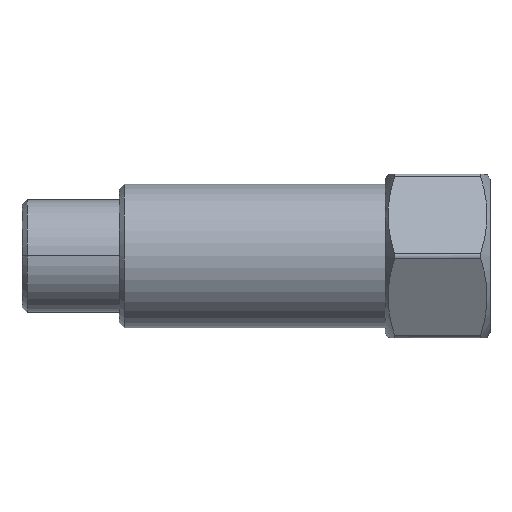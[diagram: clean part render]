
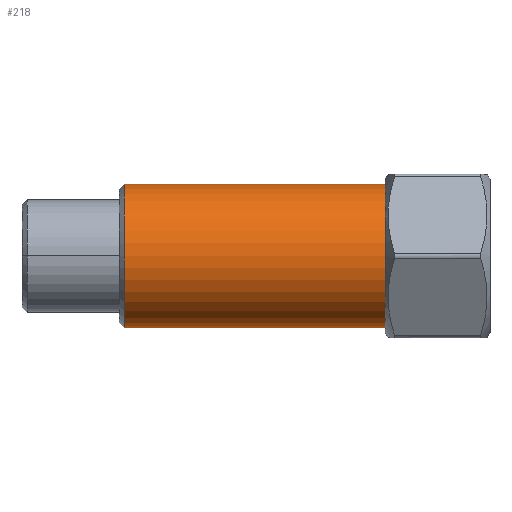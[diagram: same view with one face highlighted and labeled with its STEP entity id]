
A CAD part, top view. The second image highlights one B-rep face of the part: STEP entity #218.
In plain terms, the highlighted cylindrical face has radius 14 mm (diameter 28 mm), a partial arc.
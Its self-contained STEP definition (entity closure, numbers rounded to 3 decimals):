
#3 = DIRECTION ( 'NONE',  ( -1., 0., 0. ) ) ;
#6 = CARTESIAN_POINT ( 'NONE',  ( -10.5, 0., 0. ) ) ;
#14 = CARTESIAN_POINT ( 'NONE',  ( -10.5, -14., 0. ) ) ;
#97 = EDGE_CURVE ( 'NONE', #435, #473, #1112, .T. ) ;
#136 = ORIENTED_EDGE ( 'NONE', *, *, #333, .F. ) ;
#153 = DIRECTION ( 'NONE',  ( -1., 0., 0. ) ) ;
#159 = ORIENTED_EDGE ( 'NONE', *, *, #97, .T. ) ;
#183 = LINE ( 'NONE', #542, #1164 ) ;
#191 = CARTESIAN_POINT ( 'NONE',  ( -61.5, 0., 0. ) ) ;
#194 = DIRECTION ( 'NONE',  ( -1., 0., 0. ) ) ;
#200 = FACE_OUTER_BOUND ( 'NONE', #304, .T. ) ;
#207 = DIRECTION ( 'NONE',  ( -1., 0., 0. ) ) ;
#218 = ADVANCED_FACE ( 'NONE', ( #200 ), #1122, .T. ) ;
#252 = CARTESIAN_POINT ( 'NONE',  ( -61.5, 14., 0. ) ) ;
#268 = EDGE_CURVE ( 'NONE', #473, #1137, #608, .T. ) ;
#304 = EDGE_LOOP ( 'NONE', ( #159, #692, #1167, #136 ) ) ;
#315 = AXIS2_PLACEMENT_3D ( 'NONE', #6, #194, #375 ) ;
#333 = EDGE_CURVE ( 'NONE', #435, #1059, #183, .T. ) ;
#375 = DIRECTION ( 'NONE',  ( 0., -1., 0. ) ) ;
#383 = DIRECTION ( 'NONE',  ( 1., 0., 0. ) ) ;
#423 = EDGE_CURVE ( 'NONE', #1137, #1059, #482, .T. ) ;
#435 = VERTEX_POINT ( 'NONE', #14 ) ;
#452 = AXIS2_PLACEMENT_3D ( 'NONE', #761, #207, #953 ) ;
#472 = CARTESIAN_POINT ( 'NONE',  ( -10.5, 14., 0. ) ) ;
#473 = VERTEX_POINT ( 'NONE', #472 ) ;
#482 = CIRCLE ( 'NONE', #967, 14. ) ;
#507 = CARTESIAN_POINT ( 'NONE',  ( -61.5, -14., 0. ) ) ;
#542 = CARTESIAN_POINT ( 'NONE',  ( -62.5, -14., 0. ) ) ;
#608 = LINE ( 'NONE', #911, #766 ) ;
#692 = ORIENTED_EDGE ( 'NONE', *, *, #268, .T. ) ;
#761 = CARTESIAN_POINT ( 'NONE',  ( -62.5, 0., 0. ) ) ;
#766 = VECTOR ( 'NONE', #153, 1000. ) ;
#911 = CARTESIAN_POINT ( 'NONE',  ( -62.5, 14., 0. ) ) ;
#953 = DIRECTION ( 'NONE',  ( 0., -1., 0. ) ) ;
#967 = AXIS2_PLACEMENT_3D ( 'NONE', #191, #383, #1117 ) ;
#1059 = VERTEX_POINT ( 'NONE', #507 ) ;
#1112 = CIRCLE ( 'NONE', #315, 14. ) ;
#1117 = DIRECTION ( 'NONE',  ( 0., 1., 0. ) ) ;
#1122 = CYLINDRICAL_SURFACE ( 'NONE', #452, 14. ) ;
#1137 = VERTEX_POINT ( 'NONE', #252 ) ;
#1164 = VECTOR ( 'NONE', #3, 1000. ) ;
#1167 = ORIENTED_EDGE ( 'NONE', *, *, #423, .T. ) ;
